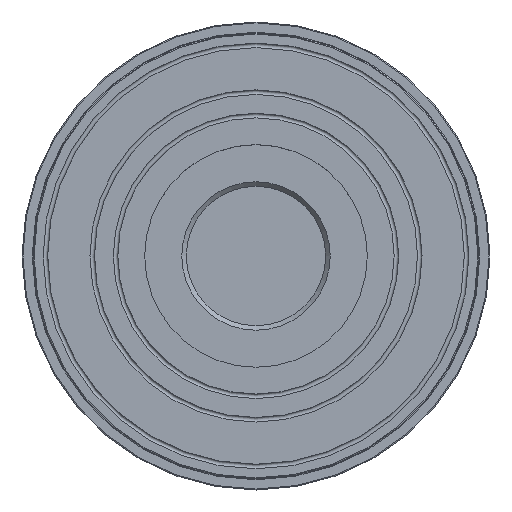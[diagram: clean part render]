
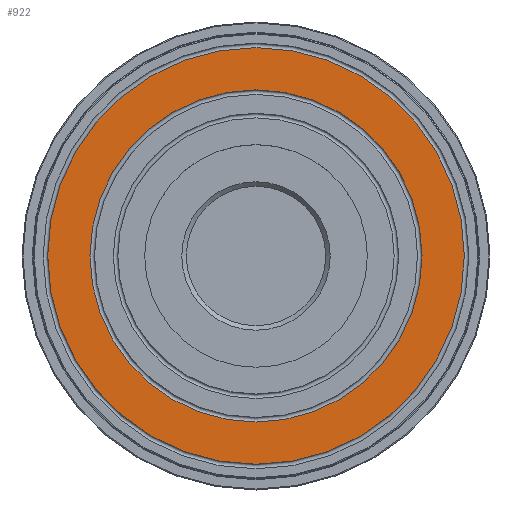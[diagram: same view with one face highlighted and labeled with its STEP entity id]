
A CAD part, top view. The second image highlights one B-rep face of the part: STEP entity #922.
In plain terms, the highlighted planar face has unit normal (0, 0, 1).
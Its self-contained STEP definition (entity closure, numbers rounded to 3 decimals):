
#922=ADVANCED_FACE('',(#1739,#1741),#1743,.T.);
#1739=FACE_BOUND('',#1740,.T.);
#1740=EDGE_LOOP('',(#5016));
#1741=FACE_BOUND('',#1742,.T.);
#1742=EDGE_LOOP('',(#5017));
#1743=PLANE('',#1744);
#1744=AXIS2_PLACEMENT_3D('',#1745,#1746,#1747);
#1745=CARTESIAN_POINT('',(0.,0.,0.));
#1746=DIRECTION('',(0.,0.,1.));
#1747=DIRECTION('',(0.,1.,0.));
#5016=ORIENTED_EDGE('',*,*,#5406,.T.);
#5017=ORIENTED_EDGE('',*,*,#5408,.T.);
#5406=EDGE_CURVE('',#5901,#5901,#5902,.F.);
#5408=EDGE_CURVE('',#5905,#5905,#5906,.T.);
#5901=VERTEX_POINT('',#8390);
#5902=CIRCLE('',#8391,45.85);
#5905=VERTEX_POINT('',#8400);
#5906=CIRCLE('',#8401,36.55);
#8390=CARTESIAN_POINT('',(0.,45.85,0.));
#8391=AXIS2_PLACEMENT_3D('',#8392,#8393,#8394);
#8392=CARTESIAN_POINT('',(0.,0.,0.));
#8393=DIRECTION('',(0.,0.,-1.));
#8394=DIRECTION('',(0.,1.,0.));
#8400=CARTESIAN_POINT('',(0.,36.55,0.));
#8401=AXIS2_PLACEMENT_3D('',#8402,#8403,#8404);
#8402=CARTESIAN_POINT('',(0.,0.,0.));
#8403=DIRECTION('',(0.,0.,-1.));
#8404=DIRECTION('',(0.,1.,0.));
